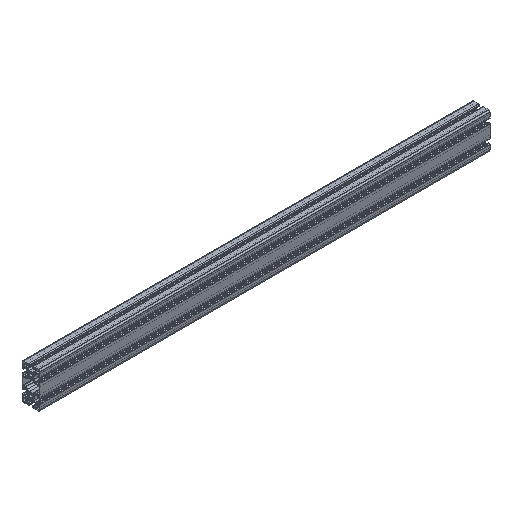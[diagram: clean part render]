
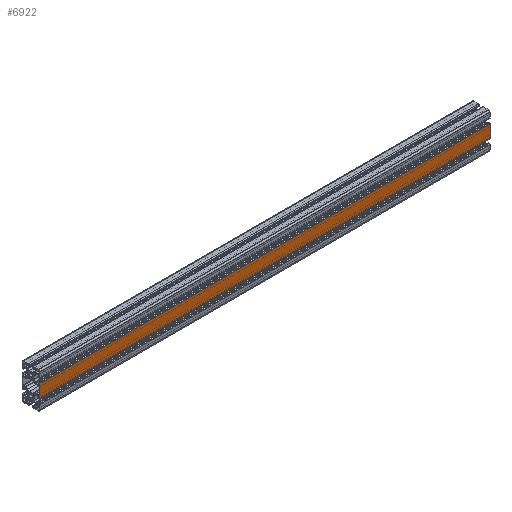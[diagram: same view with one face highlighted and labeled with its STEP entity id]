
A CAD part, isometric view. The second image highlights one B-rep face of the part: STEP entity #6922.
In plain terms, the highlighted planar face has unit normal (0, -1, 0).
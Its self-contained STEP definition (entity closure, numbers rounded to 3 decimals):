
#164 = LINE ( 'NONE', #3919, #6814 ) ;
#408 = EDGE_CURVE ( 'NONE', #6519, #1758, #5246, .T. ) ;
#865 = CARTESIAN_POINT ( 'NONE',  ( 1000., -20., 14.5 ) ) ;
#917 = CARTESIAN_POINT ( 'NONE',  ( 1000., -20., -14.5 ) ) ;
#1193 = VECTOR ( 'NONE', #7915, 1000. ) ;
#1434 = CARTESIAN_POINT ( 'NONE',  ( 1000., -20., -14.5 ) ) ;
#1461 = ORIENTED_EDGE ( 'NONE', *, *, #408, .F. ) ;
#1758 = VERTEX_POINT ( 'NONE', #8685 ) ;
#2036 = EDGE_CURVE ( 'NONE', #3111, #6519, #7992, .T. ) ;
#2499 = EDGE_CURVE ( 'NONE', #6828, #1758, #4081, .T. ) ;
#2809 = DIRECTION ( 'NONE',  ( -1., 0., 0. ) ) ;
#2951 = FACE_OUTER_BOUND ( 'NONE', #3989, .T. ) ;
#3111 = VERTEX_POINT ( 'NONE', #865 ) ;
#3419 = VECTOR ( 'NONE', #2809, 1000. ) ;
#3511 = CARTESIAN_POINT ( 'NONE',  ( 0., -20., 14.5 ) ) ;
#3594 = AXIS2_PLACEMENT_3D ( 'NONE', #917, #5708, #8490 ) ;
#3759 = VECTOR ( 'NONE', #6172, 1000. ) ;
#3908 = CARTESIAN_POINT ( 'NONE',  ( 1000., -20., -14.5 ) ) ;
#3919 = CARTESIAN_POINT ( 'NONE',  ( 1000., -20., 14.5 ) ) ;
#3989 = EDGE_LOOP ( 'NONE', ( #7660, #1461, #5166, #8867 ) ) ;
#4081 = LINE ( 'NONE', #7957, #3759 ) ;
#5166 = ORIENTED_EDGE ( 'NONE', *, *, #2036, .F. ) ;
#5246 = LINE ( 'NONE', #3908, #3419 ) ;
#5708 = DIRECTION ( 'NONE',  ( 0., 1., 0. ) ) ;
#6088 = DIRECTION ( 'NONE',  ( -1., 0., 0. ) ) ;
#6172 = DIRECTION ( 'NONE',  ( 0., 0., -1. ) ) ;
#6485 = CARTESIAN_POINT ( 'NONE',  ( 1000., -20., -14.5 ) ) ;
#6519 = VERTEX_POINT ( 'NONE', #1434 ) ;
#6814 = VECTOR ( 'NONE', #6088, 1000. ) ;
#6828 = VERTEX_POINT ( 'NONE', #3511 ) ;
#6922 = ADVANCED_FACE ( 'NONE', ( #2951 ), #7824, .F. ) ;
#7660 = ORIENTED_EDGE ( 'NONE', *, *, #2499, .T. ) ;
#7679 = EDGE_CURVE ( 'NONE', #3111, #6828, #164, .T. ) ;
#7824 = PLANE ( 'NONE',  #3594 ) ;
#7915 = DIRECTION ( 'NONE',  ( 0., 0., -1. ) ) ;
#7957 = CARTESIAN_POINT ( 'NONE',  ( 0., -20., -14.5 ) ) ;
#7992 = LINE ( 'NONE', #6485, #1193 ) ;
#8490 = DIRECTION ( 'NONE',  ( 0., 0., 1. ) ) ;
#8685 = CARTESIAN_POINT ( 'NONE',  ( 0., -20., -14.5 ) ) ;
#8867 = ORIENTED_EDGE ( 'NONE', *, *, #7679, .T. ) ;
